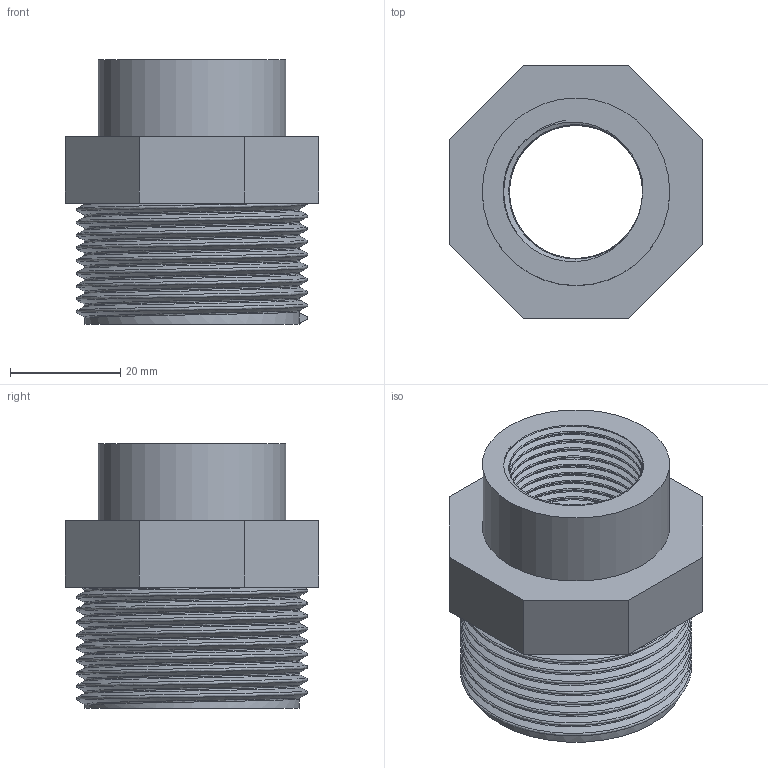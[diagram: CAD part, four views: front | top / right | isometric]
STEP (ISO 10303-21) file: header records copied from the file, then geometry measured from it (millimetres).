
FILE_DESCRIPTION(/* description */ (''),/* implementation_level */ '2;1');
FILE_NAME(/* name */ 'C:\Users\POLYPIPE\Desktop\DATASET INVENTOR\LIBRERIA EFFAST\RACCORDI 3DxWEB\RER\3D_RERRIE\3D_RERRIE040C.stp',/* time_stamp */ '2018-01-19T17:02:26+01:00',/* author */ ('POLYPIPE'),/* organization */ ('Polypipe Italia'),/* preprocessor_version */ 'ST-DEVELOPER v16.1',/* originating_system */ 'Autodesk Inventor 2016',/* authorisation */ '');
FILE_SCHEMA (('CONFIG_CONTROL_DESIGN'));
Length unit declared in the file: millimetre
Products named in the file (1): 3D_RERRIE040C
Bounding box: 46 x 46 x 48 mm (x, y, z)
Volume: 29578.2 mm3; surface area: 15852.2 mm2
Topology: 1 solids, 1 shells, 29 faces, 68 edges, 44 vertices
Faces by surface type: plane 15, bspline 10, cylinder 4
Full cylindrical faces by diameter (mm): 24.117 x1, 31.8 x1, 34 x1, 38.952 x1
Entity records: 8238 total; most frequent: CARTESIAN_POINT 7623, ORIENTED_EDGE 128, DIRECTION 94, EDGE_CURVE 64, VERTEX_POINT 43, EDGE_LOOP 37, AXIS2_PLACEMENT_3D 32, LINE 30
